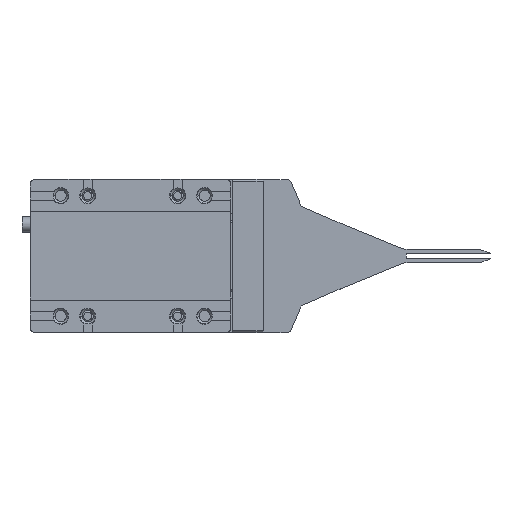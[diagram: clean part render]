
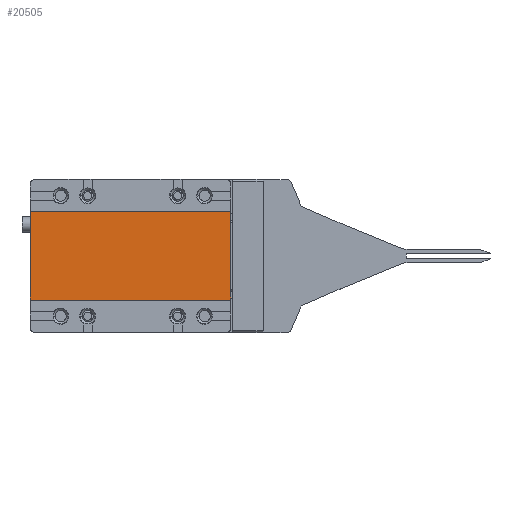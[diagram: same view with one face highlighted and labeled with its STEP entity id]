
A CAD part, top view. The second image highlights one B-rep face of the part: STEP entity #20505.
In plain terms, the highlighted planar face has unit normal (0, 0, 1).
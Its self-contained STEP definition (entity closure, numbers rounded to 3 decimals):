
#2065 = EDGE_CURVE ( 'NONE', #13706, #34781, #19274, .T. ) ;
#2351 = ORIENTED_EDGE ( 'NONE', *, *, #2065, .T. ) ;
#2431 = EDGE_CURVE ( 'NONE', #34781, #21874, #13817, .T. ) ;
#3114 = FACE_OUTER_BOUND ( 'NONE', #37590, .T. ) ;
#7814 = VECTOR ( 'NONE', #11886, 1000. ) ;
#10074 = CARTESIAN_POINT ( 'NONE',  ( 2.839, 31.572, 35.356 ) ) ;
#10536 = DIRECTION ( 'NONE',  ( 0., -1., 0. ) ) ;
#11886 = DIRECTION ( 'NONE',  ( 0., 1., 0. ) ) ;
#13031 = CARTESIAN_POINT ( 'NONE',  ( 2.739, 31.572, 35.356 ) ) ;
#13065 = ORIENTED_EDGE ( 'NONE', *, *, #2431, .T. ) ;
#13146 = CARTESIAN_POINT ( 'NONE',  ( 2.739, 31.572, 35.356 ) ) ;
#13706 = VERTEX_POINT ( 'NONE', #13031 ) ;
#13817 = LINE ( 'NONE', #32524, #36755 ) ;
#15623 = DIRECTION ( 'NONE',  ( 0., 0., 1. ) ) ;
#15918 = CARTESIAN_POINT ( 'NONE',  ( 25.039, 21.772, 35.356 ) ) ;
#16405 = LINE ( 'NONE', #28446, #7814 ) ;
#19274 = LINE ( 'NONE', #13146, #23962 ) ;
#19496 = VECTOR ( 'NONE', #24781, 1000. ) ;
#20505 = ADVANCED_FACE ( 'NONE', ( #3114 ), #33157, .T. ) ;
#21360 = CARTESIAN_POINT ( 'NONE',  ( 13.839, 26.672, 35.356 ) ) ;
#21874 = VERTEX_POINT ( 'NONE', #15918 ) ;
#23334 = DIRECTION ( 'NONE',  ( 1., 0., 0. ) ) ;
#23962 = VECTOR ( 'NONE', #10536, 1000. ) ;
#24567 = CARTESIAN_POINT ( 'NONE',  ( 2.739, 21.772, 35.356 ) ) ;
#24781 = DIRECTION ( 'NONE',  ( -1., 0., 0. ) ) ;
#25930 = VERTEX_POINT ( 'NONE', #27296 ) ;
#27296 = CARTESIAN_POINT ( 'NONE',  ( 25.039, 31.572, 35.356 ) ) ;
#27580 = EDGE_CURVE ( 'NONE', #21874, #25930, #16405, .T. ) ;
#27726 = LINE ( 'NONE', #10074, #19496 ) ;
#27797 = ORIENTED_EDGE ( 'NONE', *, *, #38947, .T. ) ;
#28446 = CARTESIAN_POINT ( 'NONE',  ( 25.039, 31.572, 35.356 ) ) ;
#28666 = AXIS2_PLACEMENT_3D ( 'NONE', #21360, #15623, #36670 ) ;
#29706 = ORIENTED_EDGE ( 'NONE', *, *, #27580, .T. ) ;
#32524 = CARTESIAN_POINT ( 'NONE',  ( 2.839, 21.772, 35.356 ) ) ;
#33157 = PLANE ( 'NONE',  #28666 ) ;
#34781 = VERTEX_POINT ( 'NONE', #24567 ) ;
#36670 = DIRECTION ( 'NONE',  ( 1., 0., 0. ) ) ;
#36755 = VECTOR ( 'NONE', #23334, 1000. ) ;
#37590 = EDGE_LOOP ( 'NONE', ( #2351, #13065, #29706, #27797 ) ) ;
#38947 = EDGE_CURVE ( 'NONE', #25930, #13706, #27726, .T. ) ;
